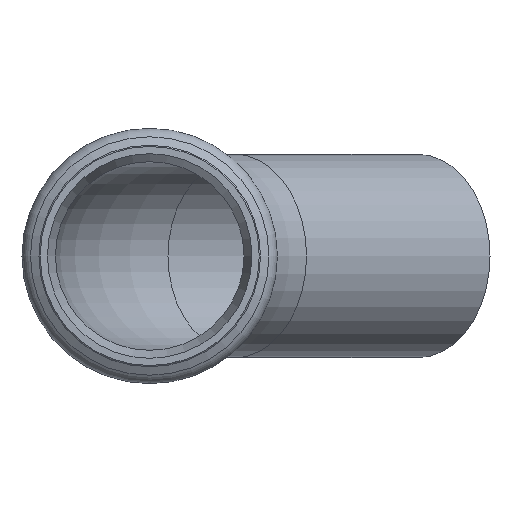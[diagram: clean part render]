
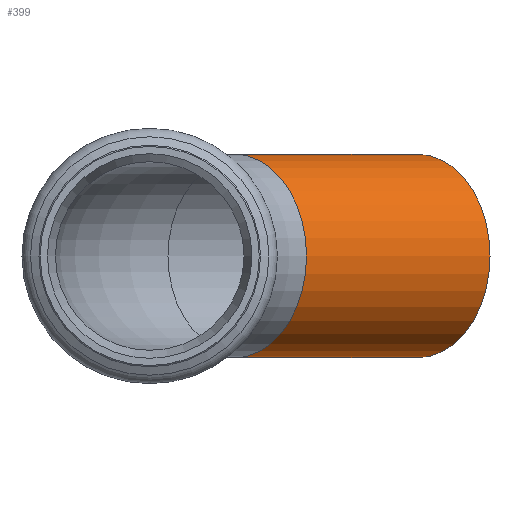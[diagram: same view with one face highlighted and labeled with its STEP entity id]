
A CAD part, left-side view. The second image highlights one B-rep face of the part: STEP entity #399.
In plain terms, the highlighted cylindrical face has radius 21 mm (diameter 42 mm), a full revolution.
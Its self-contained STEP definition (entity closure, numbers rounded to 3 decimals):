
#372=CARTESIAN_POINT('',(42.426,-17.574,0.0));
#373=DIRECTION('',(0.707,-0.707,0.0));
#374=DIRECTION('',(0.0,0.0,1.0));
#375=AXIS2_PLACEMENT_3D('',#372,#373,#374);
#376=CYLINDRICAL_SURFACE('',#375,21.0);
#377=CARTESIAN_POINT('',(80.361,-55.508,-21.0));
#378=VERTEX_POINT('',#377);
#379=CARTESIAN_POINT('',(80.361,-55.508,0.0));
#380=DIRECTION('',(-0.707,0.707,0.0));
#381=DIRECTION('',(0.0,0.0,1.0));
#382=AXIS2_PLACEMENT_3D('',#379,#380,#381);
#383=CIRCLE('',#382,21.0);
#384=EDGE_CURVE('',#378,#378,#383,.T.);
#385=ORIENTED_EDGE('',*,*,#384,.T.);
#386=EDGE_LOOP('',(#385));
#387=FACE_OUTER_BOUND('',#386,.T.);
#388=CARTESIAN_POINT('',(42.426,-17.574,-21.0));
#389=VERTEX_POINT('',#388);
#390=CARTESIAN_POINT('',(42.426,-17.574,0.0));
#391=DIRECTION('',(-0.707,0.707,0.0));
#392=DIRECTION('',(0.0,0.0,1.0));
#393=AXIS2_PLACEMENT_3D('',#390,#391,#392);
#394=CIRCLE('',#393,21.0);
#395=EDGE_CURVE('',#389,#389,#394,.T.);
#396=ORIENTED_EDGE('',*,*,#395,.F.);
#397=EDGE_LOOP('',(#396));
#398=FACE_BOUND('',#397,.T.);
#399=ADVANCED_FACE('',(#387,#398),#376,.T.);
